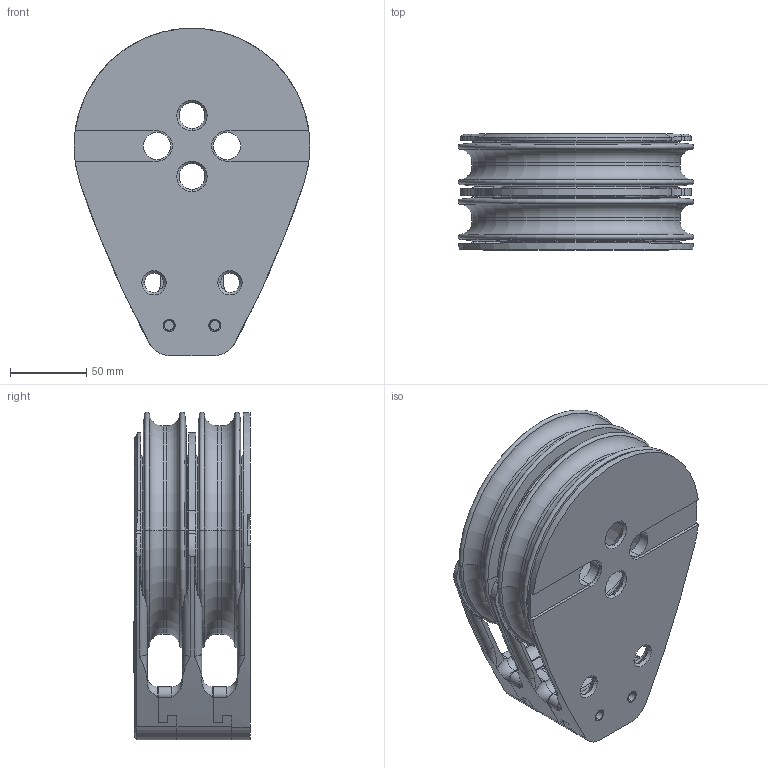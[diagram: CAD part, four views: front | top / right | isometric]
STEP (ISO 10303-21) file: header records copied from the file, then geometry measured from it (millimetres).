
FILE_DESCRIPTION((''),'2;1');
FILE_NAME('29946152_LIB_ASM','2008-05-02T',('RFields'),(''),'PRO/ENGINEER BY PARAMETRIC TECHNOLOGY CORPORATION, 2007030','PRO/ENGINEER BY PARAMETRIC TECHNOLOGY CORPORATION, 2007030','');
FILE_SCHEMA(('CONFIG_CONTROL_DESIGN'));
Length unit declared in the file: millimetre
Products named in the file (7): 25004118; 25001080; 25004120; 25004119; 25004126; B0842; 29946152_LIB_ASM
Assembly tree (8 placements, depth 2):
  29946152_LIB_ASM
    25004118
    25001080  x2
    25004120
    25004119
    25004126
    B0842  x2
Bounding box: 154.99 x 76.45 x 215.5 mm (x, y, z)
Volume: 918315.1 mm3; surface area: 291890.9 mm2
Topology: 8 solids, 10 shells, 710 faces, 1866 edges, 1200 vertices
Faces by surface type: plane 288, cylinder 232, torus 99, cone 75, bspline 16
Entity records: 21463 total; most frequent: CARTESIAN_POINT 4651, DIRECTION 3638, ORIENTED_EDGE 3464, EDGE_CURVE 1736, AXIS2_PLACEMENT_3D 1373, VERTEX_POINT 1124, VECTOR 892, LINE 892
